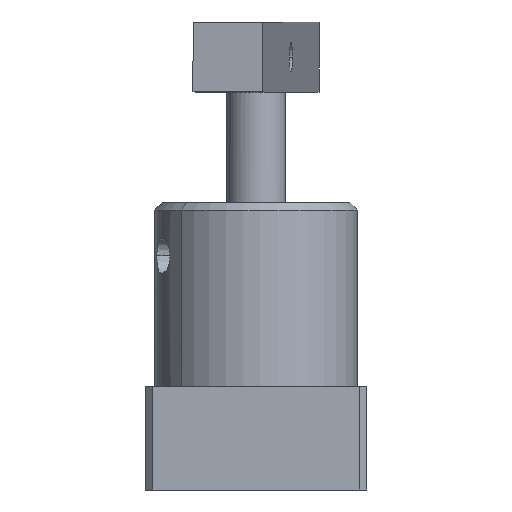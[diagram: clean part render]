
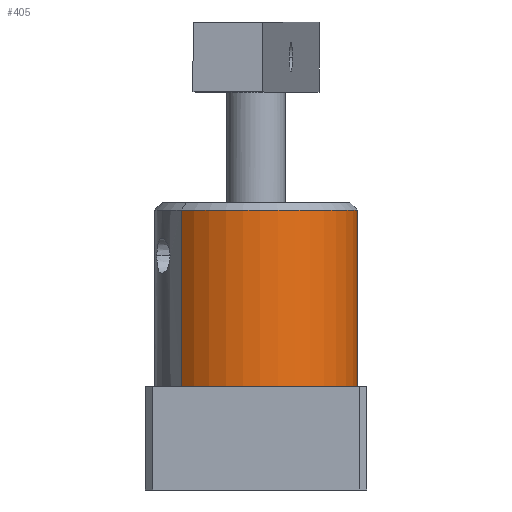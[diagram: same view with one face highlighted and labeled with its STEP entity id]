
A CAD part, left-side view. The second image highlights one B-rep face of the part: STEP entity #405.
In plain terms, the highlighted cylindrical face has radius 27.5 mm (diameter 55 mm), a partial arc.
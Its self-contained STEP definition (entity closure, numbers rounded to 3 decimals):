
#302 = VERTEX_POINT ( 'NONE', #1277 ) ;
#335 = ORIENTED_EDGE ( 'NONE', *, *, #345, .T. ) ;
#336 = ORIENTED_EDGE ( 'NONE', *, *, #337, .T. ) ;
#337 = EDGE_CURVE ( 'NONE', #302, #355, #1340, .T. ) ;
#342 = EDGE_CURVE ( 'NONE', #367, #355, #1323, .T. ) ;
#345 = EDGE_CURVE ( 'NONE', #366, #302, #1319, .T. ) ;
#355 = VERTEX_POINT ( 'NONE', #1353 ) ;
#366 = VERTEX_POINT ( 'NONE', #1371 ) ;
#367 = VERTEX_POINT ( 'NONE', #1370 ) ;
#405 = ADVANCED_FACE ( 'NONE', ( #1516 ), #1510, .T. ) ;
#406 = EDGE_LOOP ( 'NONE', ( #407, #408, #335, #336 ) ) ;
#407 = ORIENTED_EDGE ( 'NONE', *, *, #342, .F. ) ;
#408 = ORIENTED_EDGE ( 'NONE', *, *, #409, .T. ) ;
#409 = EDGE_CURVE ( 'NONE', #367, #366, #1504, .T. ) ;
#1277 = CARTESIAN_POINT ( 'NONE',  ( -55.497, 0., 27.5 ) ) ;
#1316 = DIRECTION ( 'NONE',  ( -1., 0., 0. ) ) ;
#1317 = VECTOR ( 'NONE', #1316, 1000. ) ;
#1318 = CARTESIAN_POINT ( 'NONE',  ( -67.778, 0., 27.5 ) ) ;
#1319 = LINE ( 'NONE', #1318, #1317 ) ;
#1320 = DIRECTION ( 'NONE',  ( -1., 0., 0. ) ) ;
#1321 = VECTOR ( 'NONE', #1320, 1000. ) ;
#1322 = CARTESIAN_POINT ( 'NONE',  ( -67.778, 0., -27.5 ) ) ;
#1323 = LINE ( 'NONE', #1322, #1321 ) ;
#1336 = DIRECTION ( 'NONE',  ( 0., 0., -1. ) ) ;
#1337 = DIRECTION ( 'NONE',  ( 1., 0., 0. ) ) ;
#1338 = CARTESIAN_POINT ( 'NONE',  ( -55.497, 0., 0. ) ) ;
#1339 = AXIS2_PLACEMENT_3D ( 'NONE', #1338, #1337, #1336 ) ;
#1340 = CIRCLE ( 'NONE', #1339, 27.5 ) ;
#1353 = CARTESIAN_POINT ( 'NONE',  ( -55.497, 0., -27.5 ) ) ;
#1370 = CARTESIAN_POINT ( 'NONE',  ( -7.497, 0., -27.5 ) ) ;
#1371 = CARTESIAN_POINT ( 'NONE',  ( -7.497, 0., 27.5 ) ) ;
#1501 = DIRECTION ( 'NONE',  ( 0., 0., 1. ) ) ;
#1502 = DIRECTION ( 'NONE',  ( -1., 0., 0. ) ) ;
#1503 = AXIS2_PLACEMENT_3D ( 'NONE', #1509, #1502, #1501 ) ;
#1504 = CIRCLE ( 'NONE', #1503, 27.5 ) ;
#1505 = DIRECTION ( 'NONE',  ( 0., 0., 1. ) ) ;
#1506 = DIRECTION ( 'NONE',  ( -1., 0., 0. ) ) ;
#1507 = CARTESIAN_POINT ( 'NONE',  ( -67.778, 0., 0. ) ) ;
#1508 = AXIS2_PLACEMENT_3D ( 'NONE', #1507, #1506, #1505 ) ;
#1509 = CARTESIAN_POINT ( 'NONE',  ( -7.497, 0., 0. ) ) ;
#1510 = CYLINDRICAL_SURFACE ( 'NONE', #1508, 27.5 ) ;
#1516 = FACE_OUTER_BOUND ( 'NONE', #406, .T. ) ;
